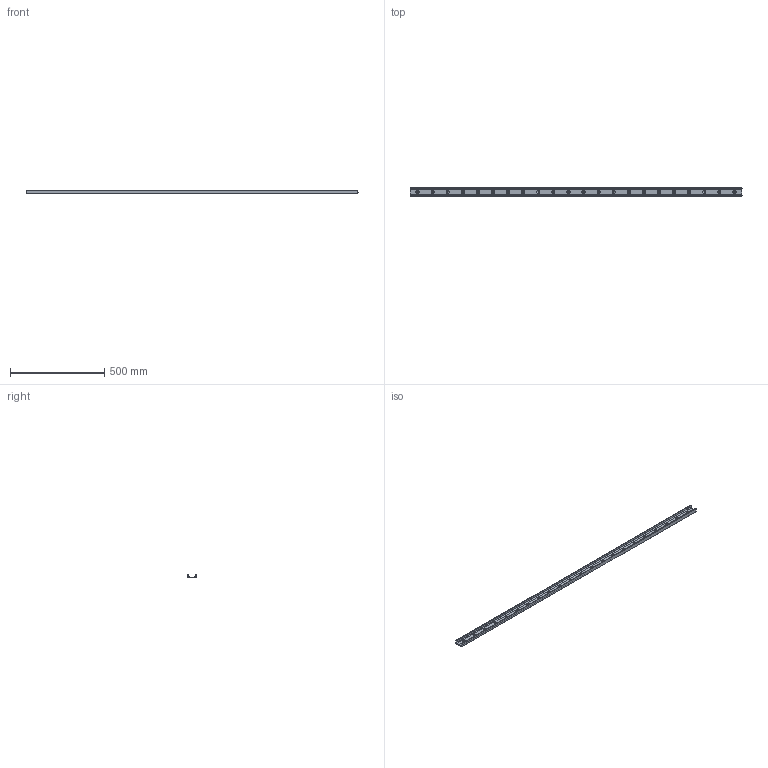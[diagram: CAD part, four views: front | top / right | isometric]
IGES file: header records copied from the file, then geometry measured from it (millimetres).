
Start section: SolidWorks IGES file using analytic representation for surfaces
Global section: file name: C:\Users\IanO\Desktop\43\L1943.ULV43_v2_20180121_IGES\L1943.ULV43-1760.igs; native system: SolidWorks 2017; preprocessor: SolidWorks 2017; author: IanO; date: 190121.090142; units: millimetre
Bounding box: 1760 x 43 x 21 mm (x, y, z)
Surface area: 273341.6 mm2 (no closed solid volume)
Topology: 0 solids, 0 shells, 114 faces, 2054 edges, 2054 vertices
Faces by surface type: revolution 101, bspline 13
